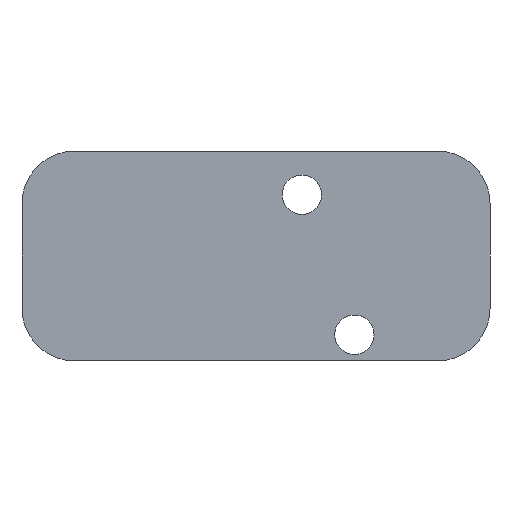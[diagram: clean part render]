
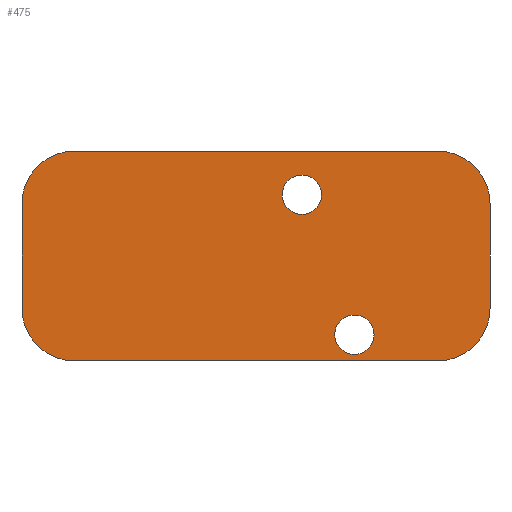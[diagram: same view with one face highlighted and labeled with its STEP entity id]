
A CAD part, front view. The second image highlights one B-rep face of the part: STEP entity #475.
In plain terms, the highlighted planar face has unit normal (0, -1, 0).
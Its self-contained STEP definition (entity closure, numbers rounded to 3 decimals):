
#134 = VERTEX_POINT('',#135);
#135 = CARTESIAN_POINT('',(0.,-2.,6.));
#141 = EDGE_CURVE('',#134,#142,#144,.T.);
#142 = VERTEX_POINT('',#143);
#143 = CARTESIAN_POINT('',(6.,-2.,0.));
#144 = CIRCLE('',#145,6.);
#145 = AXIS2_PLACEMENT_3D('',#146,#147,#148);
#146 = CARTESIAN_POINT('',(6.,-2.,6.));
#147 = DIRECTION('',(0.,-1.,0.));
#148 = DIRECTION('',(1.,0.,0.));
#407 = EDGE_CURVE('',#134,#408,#410,.T.);
#408 = VERTEX_POINT('',#409);
#409 = CARTESIAN_POINT('',(0.,-2.,18.));
#410 = LINE('',#411,#412);
#411 = CARTESIAN_POINT('',(0.,-2.,6.));
#412 = VECTOR('',#413,1.);
#413 = DIRECTION('',(0.,0.,1.));
#431 = VERTEX_POINT('',#432);
#432 = CARTESIAN_POINT('',(47.5,-2.,0.));
#438 = EDGE_CURVE('',#431,#142,#439,.T.);
#439 = LINE('',#440,#441);
#440 = CARTESIAN_POINT('',(47.5,-2.,0.));
#441 = VECTOR('',#442,1.);
#442 = DIRECTION('',(-1.,0.,0.));
#475 = ADVANCED_FACE('',(#476,#522,#533),#544,.F.);
#476 = FACE_BOUND('',#477,.F.);
#477 = EDGE_LOOP('',(#478,#488,#497,#505,#512,#513,#514,#515));
#478 = ORIENTED_EDGE('',*,*,#479,.T.);
#479 = EDGE_CURVE('',#480,#482,#484,.T.);
#480 = VERTEX_POINT('',#481);
#481 = CARTESIAN_POINT('',(6.,-2.,24.));
#482 = VERTEX_POINT('',#483);
#483 = CARTESIAN_POINT('',(47.5,-2.,24.));
#484 = LINE('',#485,#486);
#485 = CARTESIAN_POINT('',(6.,-2.,24.));
#486 = VECTOR('',#487,1.);
#487 = DIRECTION('',(1.,0.,0.));
#488 = ORIENTED_EDGE('',*,*,#489,.F.);
#489 = EDGE_CURVE('',#490,#482,#492,.T.);
#490 = VERTEX_POINT('',#491);
#491 = CARTESIAN_POINT('',(53.5,-2.,18.));
#492 = CIRCLE('',#493,6.);
#493 = AXIS2_PLACEMENT_3D('',#494,#495,#496);
#494 = CARTESIAN_POINT('',(47.5,-2.,18.));
#495 = DIRECTION('',(0.,-1.,0.));
#496 = DIRECTION('',(1.,0.,0.));
#497 = ORIENTED_EDGE('',*,*,#498,.T.);
#498 = EDGE_CURVE('',#490,#499,#501,.T.);
#499 = VERTEX_POINT('',#500);
#500 = CARTESIAN_POINT('',(53.5,-2.,6.));
#501 = LINE('',#502,#503);
#502 = CARTESIAN_POINT('',(53.5,-2.,18.));
#503 = VECTOR('',#504,1.);
#504 = DIRECTION('',(0.,0.,-1.));
#505 = ORIENTED_EDGE('',*,*,#506,.F.);
#506 = EDGE_CURVE('',#431,#499,#507,.T.);
#507 = CIRCLE('',#508,6.);
#508 = AXIS2_PLACEMENT_3D('',#509,#510,#511);
#509 = CARTESIAN_POINT('',(47.5,-2.,6.));
#510 = DIRECTION('',(0.,-1.,0.));
#511 = DIRECTION('',(1.,0.,0.));
#512 = ORIENTED_EDGE('',*,*,#438,.T.);
#513 = ORIENTED_EDGE('',*,*,#141,.F.);
#514 = ORIENTED_EDGE('',*,*,#407,.T.);
#515 = ORIENTED_EDGE('',*,*,#516,.F.);
#516 = EDGE_CURVE('',#480,#408,#517,.T.);
#517 = CIRCLE('',#518,6.);
#518 = AXIS2_PLACEMENT_3D('',#519,#520,#521);
#519 = CARTESIAN_POINT('',(6.,-2.,18.));
#520 = DIRECTION('',(0.,-1.,0.));
#521 = DIRECTION('',(1.,0.,0.));
#522 = FACE_BOUND('',#523,.F.);
#523 = EDGE_LOOP('',(#524));
#524 = ORIENTED_EDGE('',*,*,#525,.T.);
#525 = EDGE_CURVE('',#526,#526,#528,.T.);
#526 = VERTEX_POINT('',#527);
#527 = CARTESIAN_POINT('',(34.25,-2.,19.));
#528 = CIRCLE('',#529,2.25);
#529 = AXIS2_PLACEMENT_3D('',#530,#531,#532);
#530 = CARTESIAN_POINT('',(32.,-2.,19.));
#531 = DIRECTION('',(0.,-1.,0.));
#532 = DIRECTION('',(1.,0.,0.));
#533 = FACE_BOUND('',#534,.F.);
#534 = EDGE_LOOP('',(#535));
#535 = ORIENTED_EDGE('',*,*,#536,.T.);
#536 = EDGE_CURVE('',#537,#537,#539,.T.);
#537 = VERTEX_POINT('',#538);
#538 = CARTESIAN_POINT('',(40.25,-2.,3.));
#539 = CIRCLE('',#540,2.25);
#540 = AXIS2_PLACEMENT_3D('',#541,#542,#543);
#541 = CARTESIAN_POINT('',(38.,-2.,3.));
#542 = DIRECTION('',(0.,-1.,0.));
#543 = DIRECTION('',(1.,0.,0.));
#544 = PLANE('',#545);
#545 = AXIS2_PLACEMENT_3D('',#546,#547,#548);
#546 = CARTESIAN_POINT('',(26.75,-2.,12.));
#547 = DIRECTION('',(0.,1.,0.));
#548 = DIRECTION('',(0.,0.,1.));
